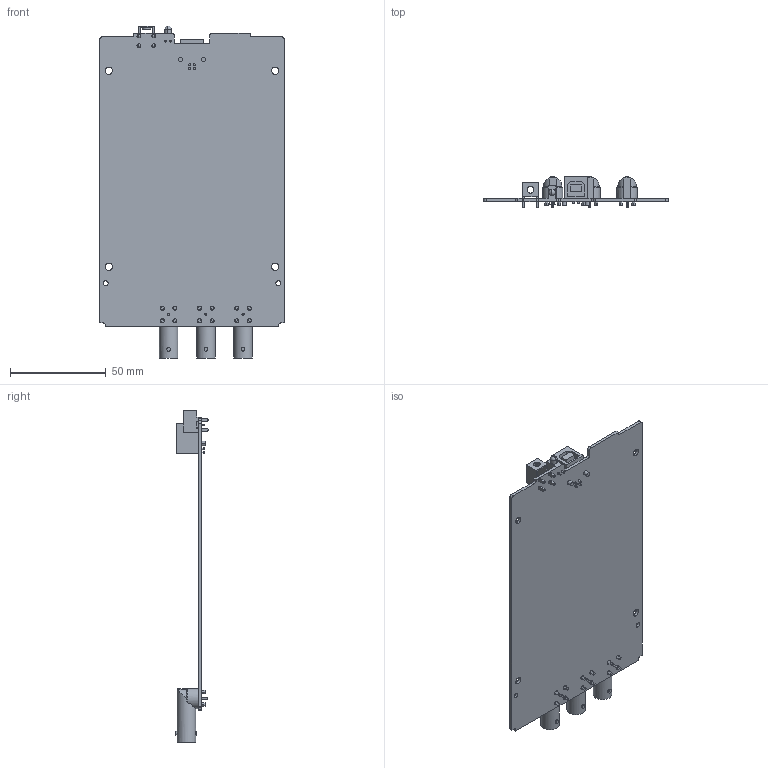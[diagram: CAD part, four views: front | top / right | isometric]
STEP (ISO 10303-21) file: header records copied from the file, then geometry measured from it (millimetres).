
FILE_DESCRIPTION((''),'2;1');
FILE_NAME('CD_USB-513X_OEM','2010-07-08T',('jjorden'),(''),'PRO/ENGINEER BY PARAMETRIC TECHNOLOGY CORPORATION, 2006080','PRO/ENGINEER BY PARAMETRIC TECHNOLOGY CORPORATION, 2006080','');
FILE_SCHEMA(('CONFIG_CONTROL_DESIGN'));
Length unit declared in the file: inch
Products named in the file (1): CD_USB-513X_OEM
Bounding box: 96.16 x 16.87 x 173.41 mm (x, y, z)
Volume: 30560.1 mm3; surface area: 35963.9 mm2
Topology: 1 solids, 1 shells, 345 faces, 952 edges, 614 vertices
Faces by surface type: plane 172, cylinder 165, cone 6, sphere 2
Entity records: 11857 total; most frequent: CARTESIAN_POINT 2617, DIRECTION 2008, ORIENTED_EDGE 1900, EDGE_CURVE 950, AXIS2_PLACEMENT_3D 752, VERTEX_POINT 614, VECTOR 504, LINE 504
